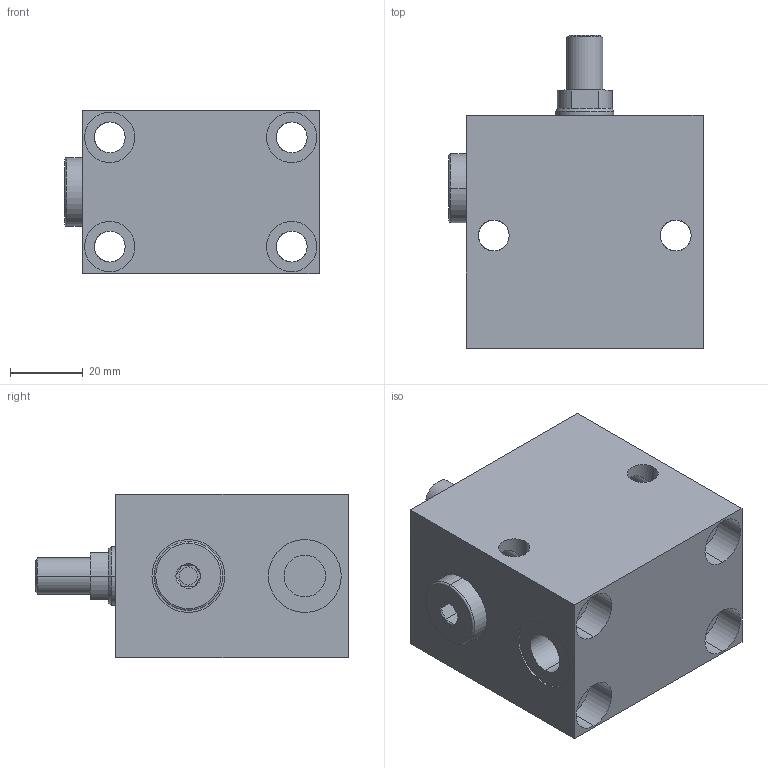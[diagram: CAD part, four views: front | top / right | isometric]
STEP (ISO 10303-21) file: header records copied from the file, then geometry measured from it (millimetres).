
FILE_DESCRIPTION (( 'STEP AP203' ), '1' );
FILE_NAME ('GERMA_Blockzylinder_650-025-008-A.STEP', '2023-08-26T14:41:10', ( '' ), ( '' ), 'SwSTEP 2.0', 'SolidWorks 2016', '' );
FILE_SCHEMA (( 'CONFIG_CONTROL_DESIGN' ));
Length unit declared in the file: millimetre
Products named in the file (3): GERMA_Blockzylinder_650-025-008-A; Kolben 60x-025_Kolben DU.25-Hub20-AG; GH-600-025-ew_GH 650-025-008
Assembly tree (2 placements, depth 2):
  GERMA_Blockzylinder_650-025-008-A
    GH-600-025-ew_GH 650-025-008
    Kolben 60x-025_Kolben DU.25-Hub20-AG
Bounding box: 69.8 x 86 x 45 mm (x, y, z)
Volume: 161243.2 mm3; surface area: 38528.8 mm2
Topology: 2 solids, 2 shells, 135 faces, 313 edges, 193 vertices
Faces by surface type: cylinder 75, plane 39, cone 19, torus 2
Entity records: 4205 total; most frequent: CARTESIAN_POINT 801, DIRECTION 690, ORIENTED_EDGE 618, EDGE_CURVE 309, AXIS2_PLACEMENT_3D 280, VERTEX_POINT 193, EDGE_LOOP 170, CIRCLE 140
